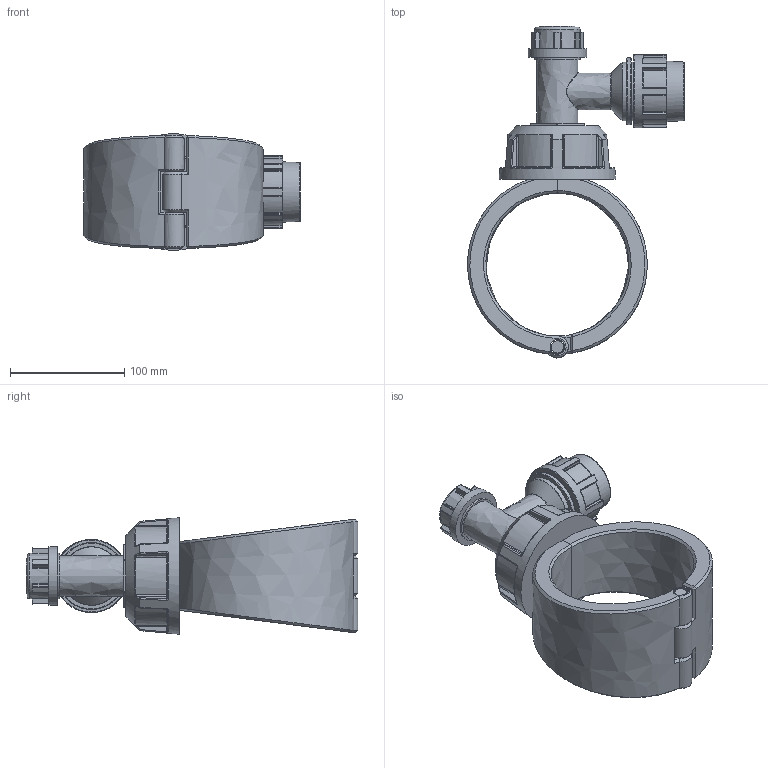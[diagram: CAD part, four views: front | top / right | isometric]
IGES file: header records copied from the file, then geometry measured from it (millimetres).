
Global section: file name: 163100160032_1631061600320A; native system: Autodesk Inventor 2019; preprocessor: unknown; author: comp2; date: 20220203.115830; units: millimetre
Bounding box: 189.5 x 290 x 101.84 mm (x, y, z)
Volume: 1111630.8 mm3; surface area: 157080.9 mm2
Topology: 4 solids, 4 shells, 519 faces, 1253 edges, 754 vertices
Faces by surface type: bspline 519
